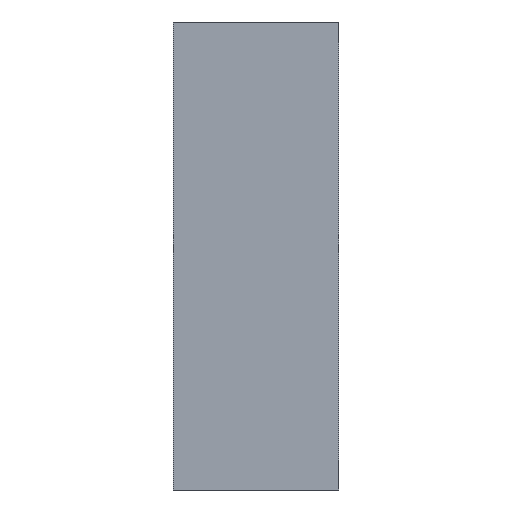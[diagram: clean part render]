
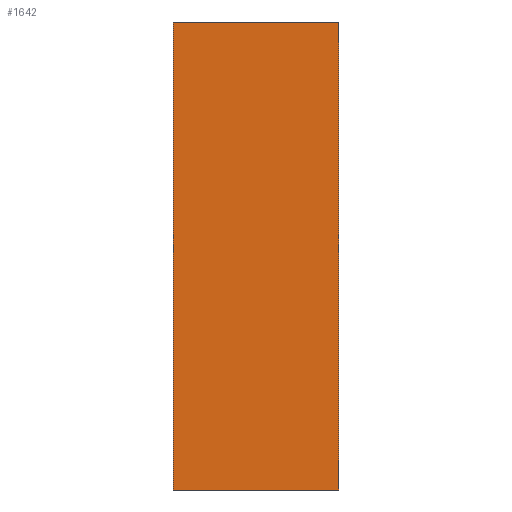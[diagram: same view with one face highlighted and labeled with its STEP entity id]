
A CAD part, left-side view. The second image highlights one B-rep face of the part: STEP entity #1642.
In plain terms, the highlighted planar face has unit normal (-1, 0, 0).
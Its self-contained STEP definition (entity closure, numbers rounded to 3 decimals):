
#57=CARTESIAN_POINT('Line Origine',(0.,0.,0.)) ;
#61=CARTESIAN_POINT('Vertex',(0.,0.,8.5)) ;
#63=CARTESIAN_POINT('Vertex',(0.,0.,-8.5)) ;
#1612=CARTESIAN_POINT('Axis2P3D Location',(0.,0.,-0.)) ;
#1617=CARTESIAN_POINT('Line Origine',(0.,6.,0.)) ;
#1621=CARTESIAN_POINT('Vertex',(0.,6.,-8.5)) ;
#1623=CARTESIAN_POINT('Vertex',(0.,6.,8.5)) ;
#1626=CARTESIAN_POINT('Line Origine',(0.,3.,-8.5)) ;
#1631=CARTESIAN_POINT('Line Origine',(0.,3.,8.5)) ;
#58=DIRECTION('Vector Direction',(0.,0.,-1.)) ;
#1613=DIRECTION('Axis2P3D Direction',(1.,0.,-0.)) ;
#1614=DIRECTION('Axis2P3D XDirection',(-0.,0.,-1.)) ;
#1618=DIRECTION('Vector Direction',(0.,0.,1.)) ;
#1627=DIRECTION('Vector Direction',(0.,1.,0.)) ;
#1632=DIRECTION('Vector Direction',(0.,-1.,0.)) ;
#1615=AXIS2_PLACEMENT_3D('Plane Axis2P3D',#1612,#1613,#1614) ;
#1637=ORIENTED_EDGE('',*,*,#1625,.F.) ;
#1638=ORIENTED_EDGE('',*,*,#1630,.F.) ;
#1639=ORIENTED_EDGE('',*,*,#65,.F.) ;
#1640=ORIENTED_EDGE('',*,*,#1635,.F.) ;
#59=VECTOR('Line Direction',#58,1.) ;
#1619=VECTOR('Line Direction',#1618,1.) ;
#1628=VECTOR('Line Direction',#1627,1.) ;
#1633=VECTOR('Line Direction',#1632,1.) ;
#1642=ADVANCED_FACE('CF-GP-06-500',(#1641),#1616,.F.) ;
#65=EDGE_CURVE('',#62,#64,#60,.T.) ;
#1625=EDGE_CURVE('',#1622,#1624,#1620,.T.) ;
#1630=EDGE_CURVE('',#64,#1622,#1629,.T.) ;
#1635=EDGE_CURVE('',#1624,#62,#1634,.T.) ;
#1636=EDGE_LOOP('',(#1637,#1638,#1639,#1640)) ;
#1641=FACE_OUTER_BOUND('',#1636,.T.) ;
#60=LINE('Line',#57,#59) ;
#1620=LINE('Line',#1617,#1619) ;
#1629=LINE('Line',#1626,#1628) ;
#1634=LINE('Line',#1631,#1633) ;
#1616=PLANE('Plane',#1615) ;
#62=VERTEX_POINT('',#61) ;
#64=VERTEX_POINT('',#63) ;
#1622=VERTEX_POINT('',#1621) ;
#1624=VERTEX_POINT('',#1623) ;
